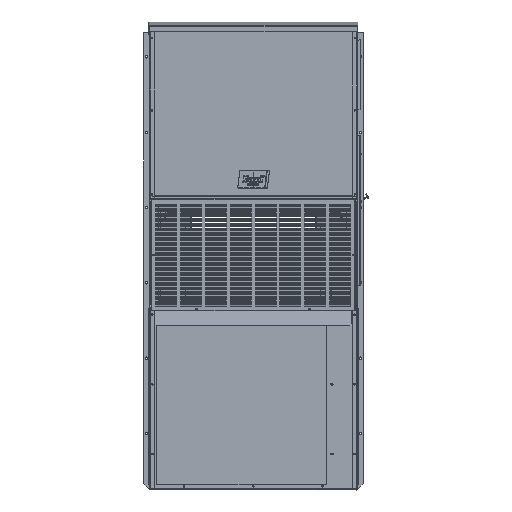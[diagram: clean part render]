
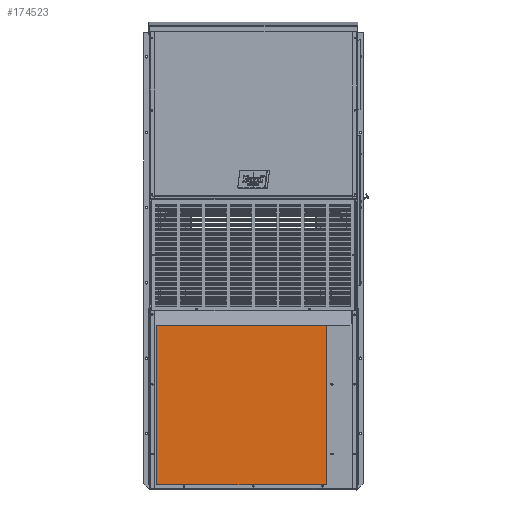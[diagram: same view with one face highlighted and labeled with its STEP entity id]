
A CAD part, top view. The second image highlights one B-rep face of the part: STEP entity #174523.
In plain terms, the highlighted planar face has unit normal (0, 0, 1).
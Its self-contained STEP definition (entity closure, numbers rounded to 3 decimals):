
#22551 = CARTESIAN_POINT ( 'NONE',  ( -31.887, -73.67, 16.412 ) ) ;
#33765 = ORIENTED_EDGE ( 'NONE', *, *, #326515, .F. ) ;
#45502 = CARTESIAN_POINT ( 'NONE',  ( -31.887, -73.67, 16.412 ) ) ;
#46784 = LINE ( 'NONE', #271034, #223612 ) ;
#58640 = CARTESIAN_POINT ( 'NONE',  ( -31.887, -73.67, 16.412 ) ) ;
#84002 = ORIENTED_EDGE ( 'NONE', *, *, #216820, .F. ) ;
#84494 = VERTEX_POINT ( 'NONE', #413210 ) ;
#94367 = ORIENTED_EDGE ( 'NONE', *, *, #366135, .F. ) ;
#130757 = DIRECTION ( 'NONE',  ( 1., 0., 0. ) ) ;
#145402 = AXIS2_PLACEMENT_3D ( 'NONE', #409985, #198466, #445419 ) ;
#162966 = PLANE ( 'NONE',  #145402 ) ;
#168786 = EDGE_LOOP ( 'NONE', ( #33765, #438232, #84002, #94367 ) ) ;
#174523 = ADVANCED_FACE ( 'NONE', ( #262080 ), #162966, .T. ) ;
#184638 = LINE ( 'NONE', #45502, #361299 ) ;
#198466 = DIRECTION ( 'NONE',  ( 0., 0., 1. ) ) ;
#200453 = LINE ( 'NONE', #311400, #377197 ) ;
#216820 = EDGE_CURVE ( 'NONE', #418031, #363293, #222428, .T. ) ;
#222428 = LINE ( 'NONE', #22551, #399328 ) ;
#223612 = VECTOR ( 'NONE', #130757, 39.37 ) ;
#262080 = FACE_OUTER_BOUND ( 'NONE', #168786, .T. ) ;
#271034 = CARTESIAN_POINT ( 'NONE',  ( -31.887, -45.601, 16.412 ) ) ;
#280494 = CARTESIAN_POINT ( 'NONE',  ( -4.884, -45.601, 16.412 ) ) ;
#292421 = DIRECTION ( 'NONE',  ( 0., 1., 0. ) ) ;
#304940 = DIRECTION ( 'NONE',  ( -1., 0., 0. ) ) ;
#311400 = CARTESIAN_POINT ( 'NONE',  ( -4.884, -73.67, 16.412 ) ) ;
#326515 = EDGE_CURVE ( 'NONE', #84494, #329817, #46784, .T. ) ;
#329817 = VERTEX_POINT ( 'NONE', #280494 ) ;
#347001 = DIRECTION ( 'NONE',  ( 0., -1., 0. ) ) ;
#350332 = CARTESIAN_POINT ( 'NONE',  ( -4.884, -73.67, 16.412 ) ) ;
#361299 = VECTOR ( 'NONE', #292421, 39.37 ) ;
#363293 = VERTEX_POINT ( 'NONE', #58640 ) ;
#366135 = EDGE_CURVE ( 'NONE', #329817, #418031, #200453, .T. ) ;
#377197 = VECTOR ( 'NONE', #347001, 39.37 ) ;
#399328 = VECTOR ( 'NONE', #304940, 39.37 ) ;
#409985 = CARTESIAN_POINT ( 'NONE',  ( -4.884, -73.67, 16.412 ) ) ;
#413210 = CARTESIAN_POINT ( 'NONE',  ( -31.887, -45.601, 16.412 ) ) ;
#418031 = VERTEX_POINT ( 'NONE', #350332 ) ;
#438232 = ORIENTED_EDGE ( 'NONE', *, *, #453547, .F. ) ;
#445419 = DIRECTION ( 'NONE',  ( 0., -1., 0. ) ) ;
#453547 = EDGE_CURVE ( 'NONE', #363293, #84494, #184638, .T. ) ;
